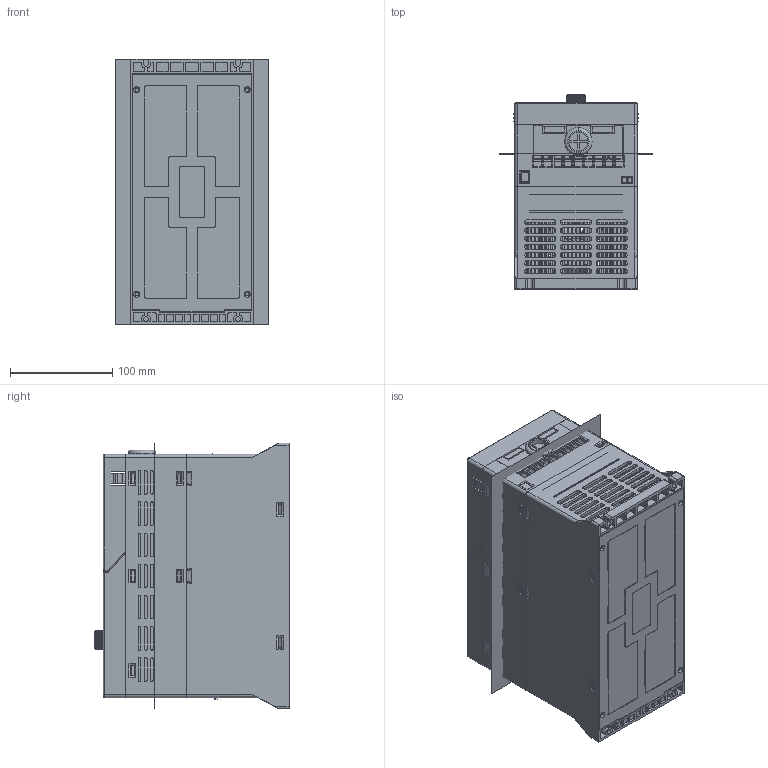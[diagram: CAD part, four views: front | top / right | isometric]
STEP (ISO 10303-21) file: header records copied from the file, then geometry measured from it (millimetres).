
FILE_DESCRIPTION((''),'2;1');
FILE_NAME('5G3GG13R005_3_ASM','2022-07-15T',('Administrator'),(''),'PRO/ENGINEER BY PARAMETRIC TECHNOLOGY CORPORATION, 2009440','PRO/ENGINEER BY PARAMETRIC TECHNOLOGY CORPORATION, 2009440','');
FILE_SCHEMA(('AUTOMOTIVE_DESIGN_CC2 { 1 2 10303 214 -1 1 5 2 }'));
Products named in the file (24): 5G3GG3S003_135; 5G3GG3S004_62; 5G3GG3S005_38; 5G3GG3S005_ASM_8_ASM; 5G3GG3S002_116; 5G3GG3S002_ASM_37_ASM; 5G3GG3S006_69; 5G3GG3S007_48; 5G3GG3S001_35; 5G3GG1F001_ASM_52_ASM; 5G3GG13R001_29; MANIFOLD_SOLID_BREP_463722; MANIFOLD_SOLID_BREP_470181; _FAN_6025B24UA_HENGTAI_7; FAN_6025B24UA_HENGTAI_7_ASM; 5G3AZ3S002__1; 5G3AZ3S005__1; KEY_ROTARY-ENCODER__1; 5G3AZ3S004B__1; 5G3AZ3S004__1; KEY_PI500__ASM_1_ASM; 00-7R5KW_ASM_119_ASM; BUS_D26-19; 5G3GG13R005_3_ASM
Assembly tree (23 placements, depth 5):
  5G3GG13R005_3_ASM
    00-7R5KW_ASM_119_ASM
      5G3GG1F001_ASM_52_ASM
        5G3GG3S003_135
        5G3GG3S004_62
        5G3GG3S005_ASM_8_ASM
          5G3GG3S005_38
        5G3GG3S002_ASM_37_ASM
          5G3GG3S002_116
        5G3GG3S006_69
        5G3GG3S007_48
        5G3GG3S001_35
      5G3GG13R001_29
      FAN_6025B24UA_HENGTAI_7_ASM
        MANIFOLD_SOLID_BREP_463722
        MANIFOLD_SOLID_BREP_470181
        _FAN_6025B24UA_HENGTAI_7
      KEY_PI500__ASM_1_ASM
        5G3AZ3S002__1
        5G3AZ3S005__1
        KEY_ROTARY-ENCODER__1
        5G3AZ3S004B__1
        5G3AZ3S004__1
    BUS_D26-19
Bounding box: 150 x 190 x 260 mm (x, y, z)
Volume: 869194.7 mm3; surface area: 941428.8 mm2
Topology: 16 solids, 69 shells, 7876 faces, 40141 edges, 35446 vertices
Faces by surface type: plane 6059, cylinder 1306, torus 152, extrusion 124, sphere 86, bspline 82, cone 65, revolution 2
Entity records: 436425 total; most frequent: CARTESIAN_POINT 89224, DIRECTION 55557, ORIENTED_EDGE 46384, VECTOR 33037, LINE 32913, EDGE_CURVE 24087, PRESENTATION_STYLE_ASSIGNMENT 18458, STYLED_ITEM 18458
